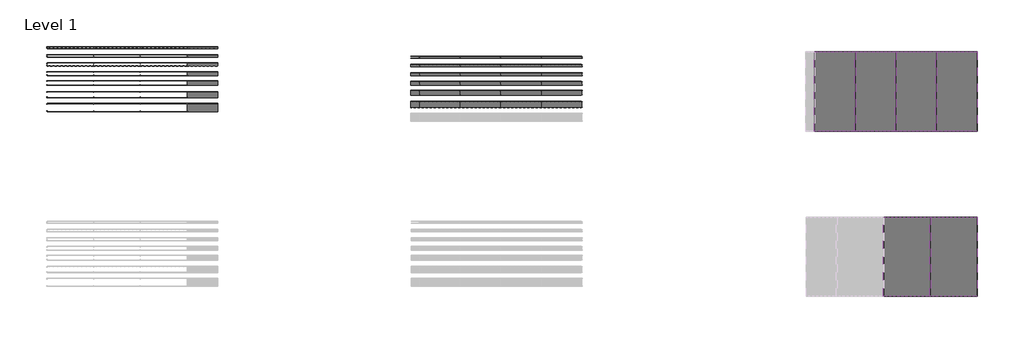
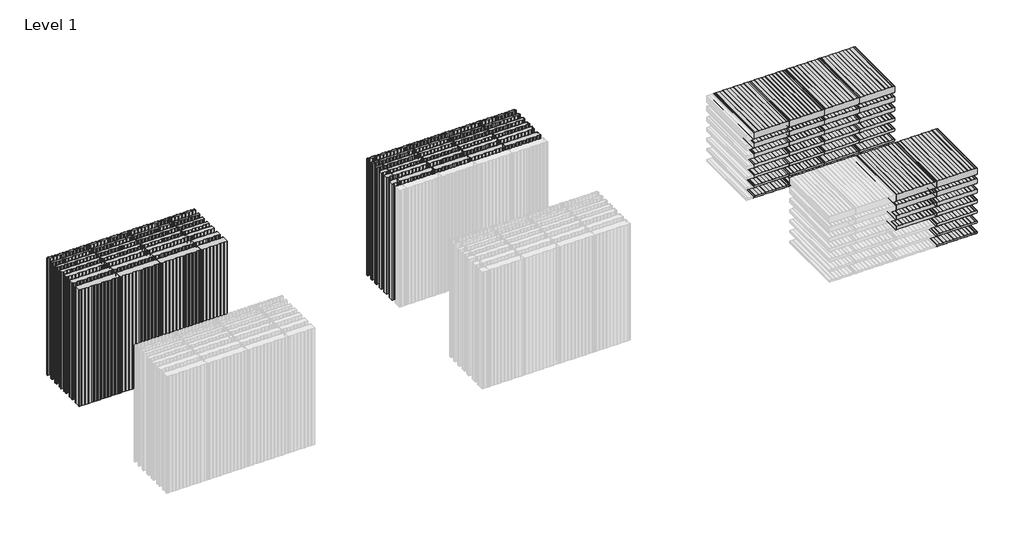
# One storey, part 4 of 4: 97 plates.
"""IFC4 building model written with IfcOpenShell, lengths in millimetres."""

from ifc_helpers import new_model, si_unit, origin, place, context, project, spatial, transform, mapped, element, save
from components import plate_c0fbc9e0, plate_24b0a13b, plate_1f1996e2, plate_37213962, plate_82cb0394, plate_46b46948, plate_215b7ad8, plate_cca0c929, plate_490ffd24, plate_86621088, plate_9c3616a6, plate_b6f5b8fb, plate_3ec6e447, plate_b6d19df9, plate_64459d4c, plate_1bd4c047, plate_331eded3, plate_70a947a0, plate_f790478e, plate_9475321e, plate_5101608a, plate_95d5dc12, plate_808d0dd5, plate_bc3a73cf, plate_645c54cf, plate_fd7bc9c6, plate_a12e6484, plate_edf24548, plate_c46ebac7, plate_a53d14e9, plate_b681ec22, plate_9f690ffb, plate_ebc39398, plate_293336a9, plate_7c5191db, plate_d920e055, plate_b3cdcdb4, plate_897669c1, plate_a9f73665, plate_05a95652, plate_f2a34cce, plate_6cec185c, plate_0c309260, plate_df710713, plate_caacb22a, plate_ede8462a, plate_cda4ae5a, plate_ffdd8b7e, plate_73a2f7ae, plate_e8205904, plate_b975286f, plate_5e7b8410, plate_5d81f6bc, plate_d92086c8

model = new_model("IFC4")

# Units and contexts
model_context = context("Model", 3, world=origin())
ifc_project = project(units=[si_unit("LENGTHUNIT", "METRE", prefix="MILLI")], contexts=[model_context])

# Site, building, storey
site = spatial("IfcSite", under=ifc_project)
building = spatial("IfcBuilding", under=site)
storey = spatial("IfcBuildingStorey", under=building, Name="Level 1", Elevation=0.0)

# Plates
placement = place(None, origin())
plate_shape = plate_c0fbc9e0(model_context)
plate_2_shape = plate_24b0a13b(model_context)
element("IfcPlate", 1, ObjectType="PM1_Curtain-Panel_Perfil-Frigorífico : ACH_PM1_Panel-Acústico-Sectorización_50M", at=placement, inside=storey, context=model_context, shape_type="MappedRepresentation", body=[
    mapped(plate_shape, transform((11007.4664378, -4719.7144508, 0.0), x_axis=(-1.0, 0.0, 0.0), y_axis=(0.0, 0.0, 1.0), z_axis=(0.0, 1.0, 0.0))),
    mapped(plate_2_shape, transform((11007.4664378, -4719.7144508, 0.0), x_axis=(-1.0, 0.0, 0.0), y_axis=(0.0, 0.0, 1.0), z_axis=(0.0, 1.0, 0.0))),
])
plate_3_shape = plate_1f1996e2(model_context)
plate_4_shape = plate_37213962(model_context)
element("IfcPlate", 2, ObjectType="PM1_Curtain-Panel_Perfil-Frigorífico : ACH_PM1_Panel-Acústico-Sectorización_60M", at=placement, inside=storey, context=model_context, shape_type="MappedRepresentation", body=[
    mapped(plate_3_shape, transform((11007.4664378, -4719.7144508, 320.0), x_axis=(-1.0, 0.0, 0.0), y_axis=(0.0, 0.0, 1.0), z_axis=(0.0, 1.0, 0.0))),
    mapped(plate_4_shape, transform((11007.4664378, -4719.7144508, 320.0), x_axis=(-1.0, 0.0, 0.0), y_axis=(0.0, 0.0, 1.0), z_axis=(0.0, 1.0, 0.0))),
])
plate_5_shape = plate_82cb0394(model_context)
plate_6_shape = plate_46b46948(model_context)
element("IfcPlate", 3, ObjectType="PM1_Curtain-Panel_Perfil-Frigorífico : ACH_PM1_Panel-Acústico-Sectorización_80M", at=placement, inside=storey, context=model_context, shape_type="MappedRepresentation", body=[
    mapped(plate_5_shape, transform((11007.4664378, -4719.7144508, 640.0), x_axis=(-1.0, 0.0, 0.0), y_axis=(0.0, 0.0, 1.0), z_axis=(0.0, 1.0, 0.0))),
    mapped(plate_6_shape, transform((11007.4664378, -4719.7144508, 640.0), x_axis=(-1.0, 0.0, 0.0), y_axis=(0.0, 0.0, 1.0), z_axis=(0.0, 1.0, 0.0))),
])
plate_7_shape = plate_215b7ad8(model_context)
plate_8_shape = plate_cca0c929(model_context)
element("IfcPlate", 4, ObjectType="PM1_Curtain-Panel_Perfil-Frigorífico : ACH_PM1_Panel-Acústico-Sectorización_100M", at=placement, inside=storey, context=model_context, shape_type="MappedRepresentation", body=[
    mapped(plate_7_shape, transform((11007.4664378, -4719.7144508, 960.0), x_axis=(-1.0, 0.0, 0.0), y_axis=(0.0, 0.0, 1.0), z_axis=(0.0, 1.0, 0.0))),
    mapped(plate_8_shape, transform((11007.4664378, -4719.7144508, 960.0), x_axis=(-1.0, 0.0, 0.0), y_axis=(0.0, 0.0, 1.0), z_axis=(0.0, 1.0, 0.0))),
])
element("IfcPlate", 5, ObjectType="PM1_Curtain-Panel_Perfil-Frigorífico : ACH_PM1_Panel-Acústico-Sectorización_100M", at=placement, inside=storey, context=model_context, shape_type="MappedRepresentation", body=[
    mapped(plate_7_shape, transform((9857.4664378, -4719.7144508, 960.0), x_axis=(-1.0, 0.0, 0.0), y_axis=(0.0, 0.0, 1.0), z_axis=(0.0, 1.0, 0.0))),
    mapped(plate_8_shape, transform((9857.4664378, -4719.7144508, 960.0), x_axis=(-1.0, 0.0, 0.0), y_axis=(0.0, 0.0, 1.0), z_axis=(0.0, 1.0, 0.0))),
])
plate_9_shape = plate_490ffd24(model_context)
plate_10_shape = plate_86621088(model_context)
element("IfcPlate", 6, ObjectType="PM1_Curtain-Panel_Perfil-Frigorífico : ACH_PM1_Panel-Acústico-Sectorización_120M", at=placement, inside=storey, context=model_context, shape_type="MappedRepresentation", body=[
    mapped(plate_9_shape, transform((11007.4664378, -4719.7144508, 1280.0), x_axis=(-1.0, 0.0, 0.0), y_axis=(0.0, 0.0, 1.0), z_axis=(0.0, 1.0, 0.0))),
    mapped(plate_10_shape, transform((11007.4664378, -4719.7144508, 1280.0), x_axis=(-1.0, 0.0, 0.0), y_axis=(0.0, 0.0, 1.0), z_axis=(0.0, 1.0, 0.0))),
])
element("IfcPlate", 7, ObjectType="PM1_Curtain-Panel_Perfil-Frigorífico : ACH_PM1_Panel-Acústico-Sectorización_120M", at=placement, inside=storey, context=model_context, shape_type="MappedRepresentation", body=[
    mapped(plate_9_shape, transform((9857.4664378, -4719.7144508, 1280.0), x_axis=(-1.0, 0.0, 0.0), y_axis=(0.0, 0.0, 1.0), z_axis=(0.0, 1.0, 0.0))),
    mapped(plate_10_shape, transform((9857.4664378, -4719.7144508, 1280.0), x_axis=(-1.0, 0.0, 0.0), y_axis=(0.0, 0.0, 1.0), z_axis=(0.0, 1.0, 0.0))),
])
plate_11_shape = plate_9c3616a6(model_context)
plate_12_shape = plate_b6f5b8fb(model_context)
element("IfcPlate", 8, ObjectType="PM1_Curtain-Panel_Perfil-Frigorífico : ACH_PM1_Panel-Acústico-Sectorización_150M", at=placement, inside=storey, context=model_context, shape_type="MappedRepresentation", body=[
    mapped(plate_11_shape, transform((11007.4664378, -4719.7144508, 1600.0), x_axis=(-1.0, 0.0, 0.0), y_axis=(0.0, 0.0, 1.0), z_axis=(0.0, 1.0, 0.0))),
    mapped(plate_12_shape, transform((11007.4664378, -4719.7144508, 1600.0), x_axis=(-1.0, 0.0, 0.0), y_axis=(0.0, 0.0, 1.0), z_axis=(0.0, 1.0, 0.0))),
])
element("IfcPlate", 9, ObjectType="PM1_Curtain-Panel_Perfil-Frigorífico : ACH_PM1_Panel-Acústico-Sectorización_150M", at=placement, inside=storey, context=model_context, shape_type="MappedRepresentation", body=[
    mapped(plate_11_shape, transform((9857.4664378, -4719.7144508, 1600.0), x_axis=(-1.0, 0.0, 0.0), y_axis=(0.0, 0.0, 1.0), z_axis=(0.0, 1.0, 0.0))),
    mapped(plate_12_shape, transform((9857.4664378, -4719.7144508, 1600.0), x_axis=(-1.0, 0.0, 0.0), y_axis=(0.0, 0.0, 1.0), z_axis=(0.0, 1.0, 0.0))),
])
plate_13_shape = plate_3ec6e447(model_context)
plate_14_shape = plate_b6d19df9(model_context)
element("IfcPlate", 10, ObjectType="PM1_Curtain-Panel_Perfil-Frigorífico : ACH_PM1_Panel-Acústico-Sectorización_200M", at=placement, inside=storey, context=model_context, shape_type="MappedRepresentation", body=[
    mapped(plate_13_shape, transform((11007.4664378, -4719.7144508, 1920.0), x_axis=(-1.0, 0.0, 0.0), y_axis=(0.0, 0.0, 1.0), z_axis=(0.0, 1.0, 0.0))),
    mapped(plate_14_shape, transform((11007.4664378, -4719.7144508, 1920.0), x_axis=(-1.0, 0.0, 0.0), y_axis=(0.0, 0.0, 1.0), z_axis=(0.0, 1.0, 0.0))),
])
element("IfcPlate", 11, ObjectType="PM1_Curtain-Panel_Perfil-Frigorífico : ACH_PM1_Panel-Acústico-Sectorización_200M", at=placement, inside=storey, context=model_context, shape_type="MappedRepresentation", body=[
    mapped(plate_13_shape, transform((9857.4664378, -4719.7144508, 1920.0), x_axis=(-1.0, 0.0, 0.0), y_axis=(0.0, 0.0, 1.0), z_axis=(0.0, 1.0, 0.0))),
    mapped(plate_14_shape, transform((9857.4664378, -4719.7144508, 1920.0), x_axis=(-1.0, 0.0, 0.0), y_axis=(0.0, 0.0, 1.0), z_axis=(0.0, 1.0, 0.0))),
])
plate_15_shape = plate_64459d4c(model_context)
plate_16_shape = plate_1bd4c047(model_context)
element("IfcPlate", 12, ObjectType="PM1_Curtain-Panel_Perfil-Estándar : ACH_PM1_Panel-Acústico-Sectorización_60M", at=placement, inside=storey, context=model_context, shape_type="MappedRepresentation", body=[
    mapped(plate_15_shape, transform((-10729.4132588, 1220.6868121, 0.0), x_axis=(1.0, 0.0, 0.0), y_axis=(0.0, 1.0, 0.0), z_axis=(0.0, 0.0, 1.0))),
    mapped(plate_16_shape, transform((-10729.4132588, 1220.6868121, 0.0), x_axis=(1.0, 0.0, 0.0), y_axis=(0.0, 1.0, 0.0), z_axis=(0.0, 0.0, 1.0))),
])
element("IfcPlate", 13, ObjectType="PM1_Curtain-Panel_Perfil-Estándar : ACH_PM1_Panel-Acústico-Sectorización_60M", at=placement, inside=storey, context=model_context, shape_type="MappedRepresentation", body=[
    mapped(plate_15_shape, transform((-9579.4132588, 1220.6868121, 0.0), x_axis=(1.0, 0.0, 0.0), y_axis=(0.0, 1.0, 0.0), z_axis=(0.0, 0.0, 1.0))),
    mapped(plate_16_shape, transform((-9579.4132588, 1220.6868121, 0.0), x_axis=(1.0, 0.0, 0.0), y_axis=(0.0, 1.0, 0.0), z_axis=(0.0, 0.0, 1.0))),
])
element("IfcPlate", 14, ObjectType="PM1_Curtain-Panel_Perfil-Estándar : ACH_PM1_Panel-Acústico-Sectorización_60M", at=placement, inside=storey, context=model_context, shape_type="MappedRepresentation", body=[
    mapped(plate_15_shape, transform((-8429.4132588, 1220.6868121, 0.0), x_axis=(1.0, 0.0, 0.0), y_axis=(0.0, 1.0, 0.0), z_axis=(0.0, 0.0, 1.0))),
    mapped(plate_16_shape, transform((-8429.4132588, 1220.6868121, 0.0), x_axis=(1.0, 0.0, 0.0), y_axis=(0.0, 1.0, 0.0), z_axis=(0.0, 0.0, 1.0))),
])
plate_17_shape = plate_331eded3(model_context)
element("IfcPlate", 15, ObjectType="PM1_Curtain-Panel_Perfil-Estándar : ACH_PM1_Panel-Acústico-Sectorización_60M", at=placement, inside=storey, context=model_context, shape_type="MappedRepresentation", body=[
    mapped(plate_17_shape, transform((-7479.4132588, 1220.6868121, 0.0), x_axis=(1.0, 0.0, 0.0), y_axis=(0.0, 1.0, 0.0), z_axis=(0.0, 0.0, 1.0))),
])
plate_18_shape = plate_70a947a0(model_context)
plate_19_shape = plate_f790478e(model_context)
element("IfcPlate", 16, ObjectType="PM1_Curtain-Panel_Perfil-Estándar : ACH_PM1_Panel-Acústico-Sectorización_80M", at=placement, inside=storey, context=model_context, shape_type="MappedRepresentation", body=[
    mapped(plate_18_shape, transform((-10729.4132588, 1020.6868121, 0.0), x_axis=(1.0, 0.0, 0.0), y_axis=(0.0, 1.0, 0.0), z_axis=(0.0, 0.0, 1.0))),
    mapped(plate_19_shape, transform((-10729.4132588, 1020.6868121, 0.0), x_axis=(1.0, 0.0, 0.0), y_axis=(0.0, 1.0, 0.0), z_axis=(0.0, 0.0, 1.0))),
])
element("IfcPlate", 17, ObjectType="PM1_Curtain-Panel_Perfil-Estándar : ACH_PM1_Panel-Acústico-Sectorización_80M", at=placement, inside=storey, context=model_context, shape_type="MappedRepresentation", body=[
    mapped(plate_18_shape, transform((-9579.4132588, 1020.6868121, 0.0), x_axis=(1.0, 0.0, 0.0), y_axis=(0.0, 1.0, 0.0), z_axis=(0.0, 0.0, 1.0))),
    mapped(plate_19_shape, transform((-9579.4132588, 1020.6868121, 0.0), x_axis=(1.0, 0.0, 0.0), y_axis=(0.0, 1.0, 0.0), z_axis=(0.0, 0.0, 1.0))),
])
element("IfcPlate", 18, ObjectType="PM1_Curtain-Panel_Perfil-Estándar : ACH_PM1_Panel-Acústico-Sectorización_80M", at=placement, inside=storey, context=model_context, shape_type="MappedRepresentation", body=[
    mapped(plate_18_shape, transform((-8429.4132588, 1020.6868121, 0.0), x_axis=(1.0, 0.0, 0.0), y_axis=(0.0, 1.0, 0.0), z_axis=(0.0, 0.0, 1.0))),
    mapped(plate_19_shape, transform((-8429.4132588, 1020.6868121, 0.0), x_axis=(1.0, 0.0, 0.0), y_axis=(0.0, 1.0, 0.0), z_axis=(0.0, 0.0, 1.0))),
])
plate_20_shape = plate_9475321e(model_context)
element("IfcPlate", 19, ObjectType="PM1_Curtain-Panel_Perfil-Estándar : ACH_PM1_Panel-Acústico-Sectorización_80M", at=placement, inside=storey, context=model_context, shape_type="MappedRepresentation", body=[
    mapped(plate_20_shape, transform((-7479.4132588, 1020.6868121, 0.0), x_axis=(1.0, 0.0, 0.0), y_axis=(0.0, 1.0, 0.0), z_axis=(0.0, 0.0, 1.0))),
])
plate_21_shape = plate_5101608a(model_context)
plate_22_shape = plate_95d5dc12(model_context)
element("IfcPlate", 20, ObjectType="PM1_Curtain-Panel_Perfil-Estándar : ACH_PM1_Panel-Acústico-Sectorización_50M", at=placement, inside=storey, context=model_context, shape_type="MappedRepresentation", body=[
    mapped(plate_21_shape, transform((-10729.4132588, 1420.6868121, 0.0), x_axis=(1.0, 0.0, 0.0), y_axis=(0.0, 1.0, 0.0), z_axis=(0.0, 0.0, 1.0))),
    mapped(plate_22_shape, transform((-10729.4132588, 1420.6868121, 0.0), x_axis=(1.0, 0.0, 0.0), y_axis=(0.0, 1.0, 0.0), z_axis=(0.0, 0.0, 1.0))),
])
element("IfcPlate", 21, ObjectType="PM1_Curtain-Panel_Perfil-Estándar : ACH_PM1_Panel-Acústico-Sectorización_50M", at=placement, inside=storey, context=model_context, shape_type="MappedRepresentation", body=[
    mapped(plate_21_shape, transform((-9579.4132588, 1420.6868121, 0.0), x_axis=(1.0, 0.0, 0.0), y_axis=(0.0, 1.0, 0.0), z_axis=(0.0, 0.0, 1.0))),
    mapped(plate_22_shape, transform((-9579.4132588, 1420.6868121, 0.0), x_axis=(1.0, 0.0, 0.0), y_axis=(0.0, 1.0, 0.0), z_axis=(0.0, 0.0, 1.0))),
])
element("IfcPlate", 22, ObjectType="PM1_Curtain-Panel_Perfil-Estándar : ACH_PM1_Panel-Acústico-Sectorización_50M", at=placement, inside=storey, context=model_context, shape_type="MappedRepresentation", body=[
    mapped(plate_21_shape, transform((-8429.4132588, 1420.6868121, 0.0), x_axis=(1.0, 0.0, 0.0), y_axis=(0.0, 1.0, 0.0), z_axis=(0.0, 0.0, 1.0))),
    mapped(plate_22_shape, transform((-8429.4132588, 1420.6868121, 0.0), x_axis=(1.0, 0.0, 0.0), y_axis=(0.0, 1.0, 0.0), z_axis=(0.0, 0.0, 1.0))),
])
plate_23_shape = plate_808d0dd5(model_context)
element("IfcPlate", 23, ObjectType="PM1_Curtain-Panel_Perfil-Estándar : ACH_PM1_Panel-Acústico-Sectorización_50M", at=placement, inside=storey, context=model_context, shape_type="MappedRepresentation", body=[
    mapped(plate_23_shape, transform((-7479.4012848, 1420.6868121, 0.0), x_axis=(1.0, 0.0, 0.0), y_axis=(0.0, 1.0, 0.0), z_axis=(0.0, 0.0, 1.0))),
])
plate_24_shape = plate_bc3a73cf(model_context)
plate_25_shape = plate_645c54cf(model_context)
element("IfcPlate", 24, ObjectType="PM1_Curtain-Panel_Perfil-Estándar : ACH_PM1_Panel-Acústico-Sectorización_100M", at=placement, inside=storey, context=model_context, shape_type="MappedRepresentation", body=[
    mapped(plate_24_shape, transform((-10729.4132588, 804.8868121, 0.0), x_axis=(1.0, 0.0, 0.0), y_axis=(0.0, 1.0, 0.0), z_axis=(0.0, 0.0, 1.0))),
    mapped(plate_25_shape, transform((-10729.4132588, 804.8868121, 0.0), x_axis=(1.0, 0.0, 0.0), y_axis=(0.0, 1.0, 0.0), z_axis=(0.0, 0.0, 1.0))),
])
element("IfcPlate", 25, ObjectType="PM1_Curtain-Panel_Perfil-Estándar : ACH_PM1_Panel-Acústico-Sectorización_100M", at=placement, inside=storey, context=model_context, shape_type="MappedRepresentation", body=[
    mapped(plate_24_shape, transform((-9579.4132588, 804.8868121, 0.0), x_axis=(1.0, 0.0, 0.0), y_axis=(0.0, 1.0, 0.0), z_axis=(0.0, 0.0, 1.0))),
    mapped(plate_25_shape, transform((-9579.4132588, 804.8868121, 0.0), x_axis=(1.0, 0.0, 0.0), y_axis=(0.0, 1.0, 0.0), z_axis=(0.0, 0.0, 1.0))),
])
element("IfcPlate", 26, ObjectType="PM1_Curtain-Panel_Perfil-Estándar : ACH_PM1_Panel-Acústico-Sectorización_100M", at=placement, inside=storey, context=model_context, shape_type="MappedRepresentation", body=[
    mapped(plate_24_shape, transform((-8429.4132588, 804.8868121, 0.0), x_axis=(1.0, 0.0, 0.0), y_axis=(0.0, 1.0, 0.0), z_axis=(0.0, 0.0, 1.0))),
    mapped(plate_25_shape, transform((-8429.4132588, 804.8868121, 0.0), x_axis=(1.0, 0.0, 0.0), y_axis=(0.0, 1.0, 0.0), z_axis=(0.0, 0.0, 1.0))),
])
plate_26_shape = plate_fd7bc9c6(model_context)
element("IfcPlate", 27, ObjectType="PM1_Curtain-Panel_Perfil-Estándar : ACH_PM1_Panel-Acústico-Sectorización_100M", at=placement, inside=storey, context=model_context, shape_type="MappedRepresentation", body=[
    mapped(plate_26_shape, transform((-7479.4132588, 804.8868121, 0.0), x_axis=(1.0, 0.0, 0.0), y_axis=(0.0, 1.0, 0.0), z_axis=(0.0, 0.0, 1.0))),
])
plate_27_shape = plate_a12e6484(model_context)
plate_28_shape = plate_edf24548(model_context)
element("IfcPlate", 28, ObjectType="PM1_Curtain-Panel_Perfil-Estándar : ACH_PM1_Panel-Acústico-Sectorización_120M", at=placement, inside=storey, context=model_context, shape_type="MappedRepresentation", body=[
    mapped(plate_27_shape, transform((-10729.4132588, 584.8868121, 0.0), x_axis=(1.0, 0.0, 0.0), y_axis=(0.0, 1.0, 0.0), z_axis=(0.0, 0.0, 1.0))),
    mapped(plate_28_shape, transform((-10729.4132588, 584.8868121, 0.0), x_axis=(1.0, 0.0, 0.0), y_axis=(0.0, 1.0, 0.0), z_axis=(0.0, 0.0, 1.0))),
])
element("IfcPlate", 29, ObjectType="PM1_Curtain-Panel_Perfil-Estándar : ACH_PM1_Panel-Acústico-Sectorización_120M", at=placement, inside=storey, context=model_context, shape_type="MappedRepresentation", body=[
    mapped(plate_27_shape, transform((-9579.4132588, 584.8868121, 0.0), x_axis=(1.0, 0.0, 0.0), y_axis=(0.0, 1.0, 0.0), z_axis=(0.0, 0.0, 1.0))),
    mapped(plate_28_shape, transform((-9579.4132588, 584.8868121, 0.0), x_axis=(1.0, 0.0, 0.0), y_axis=(0.0, 1.0, 0.0), z_axis=(0.0, 0.0, 1.0))),
])
element("IfcPlate", 30, ObjectType="PM1_Curtain-Panel_Perfil-Estándar : ACH_PM1_Panel-Acústico-Sectorización_120M", at=placement, inside=storey, context=model_context, shape_type="MappedRepresentation", body=[
    mapped(plate_27_shape, transform((-8429.4132588, 584.8868121, 0.0), x_axis=(1.0, 0.0, 0.0), y_axis=(0.0, 1.0, 0.0), z_axis=(0.0, 0.0, 1.0))),
    mapped(plate_28_shape, transform((-8429.4132588, 584.8868121, 0.0), x_axis=(1.0, 0.0, 0.0), y_axis=(0.0, 1.0, 0.0), z_axis=(0.0, 0.0, 1.0))),
])
plate_29_shape = plate_c46ebac7(model_context)
element("IfcPlate", 31, ObjectType="PM1_Curtain-Panel_Perfil-Estándar : ACH_PM1_Panel-Acústico-Sectorización_120M", at=placement, inside=storey, context=model_context, shape_type="MappedRepresentation", body=[
    mapped(plate_29_shape, transform((-7479.4132588, 584.8868121, 0.0), x_axis=(1.0, 0.0, 0.0), y_axis=(0.0, 1.0, 0.0), z_axis=(0.0, 0.0, 1.0))),
])
plate_30_shape = plate_a53d14e9(model_context)
plate_31_shape = plate_b681ec22(model_context)
element("IfcPlate", 32, ObjectType="PM1_Curtain-Panel_Perfil-Estándar : ACH_PM1_Panel-Acústico-Sectorización_150M", at=placement, inside=storey, context=model_context, shape_type="MappedRepresentation", body=[
    mapped(plate_30_shape, transform((-10729.4132588, 309.8868121, 0.0), x_axis=(1.0, 0.0, 0.0), y_axis=(0.0, 1.0, 0.0), z_axis=(0.0, 0.0, 1.0))),
    mapped(plate_31_shape, transform((-10729.4132588, 309.8868121, 0.0), x_axis=(1.0, 0.0, 0.0), y_axis=(0.0, 1.0, 0.0), z_axis=(0.0, 0.0, 1.0))),
])
element("IfcPlate", 33, ObjectType="PM1_Curtain-Panel_Perfil-Estándar : ACH_PM1_Panel-Acústico-Sectorización_150M", at=placement, inside=storey, context=model_context, shape_type="MappedRepresentation", body=[
    mapped(plate_30_shape, transform((-9579.4132588, 309.8868121, 0.0), x_axis=(1.0, 0.0, 0.0), y_axis=(0.0, 1.0, 0.0), z_axis=(0.0, 0.0, 1.0))),
    mapped(plate_31_shape, transform((-9579.4132588, 309.8868121, 0.0), x_axis=(1.0, 0.0, 0.0), y_axis=(0.0, 1.0, 0.0), z_axis=(0.0, 0.0, 1.0))),
])
element("IfcPlate", 34, ObjectType="PM1_Curtain-Panel_Perfil-Estándar : ACH_PM1_Panel-Acústico-Sectorización_150M", at=placement, inside=storey, context=model_context, shape_type="MappedRepresentation", body=[
    mapped(plate_30_shape, transform((-8429.4132588, 309.8868121, 0.0), x_axis=(1.0, 0.0, 0.0), y_axis=(0.0, 1.0, 0.0), z_axis=(0.0, 0.0, 1.0))),
    mapped(plate_31_shape, transform((-8429.4132588, 309.8868121, 0.0), x_axis=(1.0, 0.0, 0.0), y_axis=(0.0, 1.0, 0.0), z_axis=(0.0, 0.0, 1.0))),
])
plate_32_shape = plate_9f690ffb(model_context)
element("IfcPlate", 35, ObjectType="PM1_Curtain-Panel_Perfil-Estándar : ACH_PM1_Panel-Acústico-Sectorización_150M", at=placement, inside=storey, context=model_context, shape_type="MappedRepresentation", body=[
    mapped(plate_32_shape, transform((-7479.4132588, 309.8868121, 0.0), x_axis=(1.0, 0.0, 0.0), y_axis=(0.0, 1.0, 0.0), z_axis=(0.0, 0.0, 1.0))),
])
plate_33_shape = plate_ebc39398(model_context)
plate_34_shape = plate_293336a9(model_context)
element("IfcPlate", 36, ObjectType="PM1_Curtain-Panel_Perfil-Estándar : ACH_PM1_Panel-Acústico-Sectorización_200M", at=placement, inside=storey, context=model_context, shape_type="MappedRepresentation", body=[
    mapped(plate_33_shape, transform((-10729.4132588, 19.8868121, 0.0), x_axis=(1.0, 0.0, 0.0), y_axis=(0.0, 1.0, 0.0), z_axis=(0.0, 0.0, 1.0))),
    mapped(plate_34_shape, transform((-10729.4132588, 19.8868121, 0.0), x_axis=(1.0, 0.0, 0.0), y_axis=(0.0, 1.0, 0.0), z_axis=(0.0, 0.0, 1.0))),
])
element("IfcPlate", 37, ObjectType="PM1_Curtain-Panel_Perfil-Estándar : ACH_PM1_Panel-Acústico-Sectorización_200M", at=placement, inside=storey, context=model_context, shape_type="MappedRepresentation", body=[
    mapped(plate_33_shape, transform((-9579.4132588, 19.8868121, 0.0), x_axis=(1.0, 0.0, 0.0), y_axis=(0.0, 1.0, 0.0), z_axis=(0.0, 0.0, 1.0))),
    mapped(plate_34_shape, transform((-9579.4132588, 19.8868121, 0.0), x_axis=(1.0, 0.0, 0.0), y_axis=(0.0, 1.0, 0.0), z_axis=(0.0, 0.0, 1.0))),
])
element("IfcPlate", 38, ObjectType="PM1_Curtain-Panel_Perfil-Estándar : ACH_PM1_Panel-Acústico-Sectorización_200M", at=placement, inside=storey, context=model_context, shape_type="MappedRepresentation", body=[
    mapped(plate_33_shape, transform((-8429.4132588, 19.8868121, 0.0), x_axis=(1.0, 0.0, 0.0), y_axis=(0.0, 1.0, 0.0), z_axis=(0.0, 0.0, 1.0))),
    mapped(plate_34_shape, transform((-8429.4132588, 19.8868121, 0.0), x_axis=(1.0, 0.0, 0.0), y_axis=(0.0, 1.0, 0.0), z_axis=(0.0, 0.0, 1.0))),
])
plate_35_shape = plate_7c5191db(model_context)
element("IfcPlate", 39, ObjectType="PM1_Curtain-Panel_Perfil-Estándar : ACH_PM1_Panel-Acústico-Sectorización_200M", at=placement, inside=storey, context=model_context, shape_type="MappedRepresentation", body=[
    mapped(plate_35_shape, transform((-7479.4132588, 19.8868121, 0.0), x_axis=(1.0, 0.0, 0.0), y_axis=(0.0, 1.0, 0.0), z_axis=(0.0, 0.0, 1.0))),
])
plate_36_shape = plate_d920e055(model_context)
element("IfcPlate", 40, ObjectType="PMH_Curtain-Panel_Perfil-Estándar : ACH_PMH_Panel-Acústico-Sectorización_60M", at=placement, inside=storey, context=model_context, shape_type="MappedRepresentation", body=[
    mapped(plate_36_shape, transform((1353.9432954, 981.1826032, 0.0), x_axis=(-1.0, 0.0, 0.0), y_axis=(0.0, -1.0, 0.0), z_axis=(0.0, 0.0, 1.0))),
])
element("IfcPlate", 41, ObjectType="PMH_Curtain-Panel_Perfil-Estándar : ACH_PMH_Panel-Acústico-Sectorización_60M", at=placement, inside=storey, context=model_context, shape_type="MappedRepresentation", body=[
    mapped(plate_36_shape, transform((-646.0567046, 981.1826032, 0.0), x_axis=(-1.0, 0.0, 0.0), y_axis=(0.0, -1.0, 0.0), z_axis=(0.0, 0.0, 1.0))),
])
element("IfcPlate", 42, ObjectType="PMH_Curtain-Panel_Perfil-Estándar : ACH_PMH_Panel-Acústico-Sectorización_60M", at=placement, inside=storey, context=model_context, shape_type="MappedRepresentation", body=[
    mapped(plate_36_shape, transform((-1646.0567046, 981.1826032, 0.0), x_axis=(-1.0, 0.0, 0.0), y_axis=(0.0, -1.0, 0.0), z_axis=(0.0, 0.0, 1.0))),
])
element("IfcPlate", 43, ObjectType="PMH_Curtain-Panel_Perfil-Estándar : ACH_PMH_Panel-Acústico-Sectorización_60M", at=placement, inside=storey, context=model_context, shape_type="MappedRepresentation", body=[
    mapped(plate_36_shape, transform((353.9432954, 981.1826032, 0.0), x_axis=(-1.0, 0.0, 0.0), y_axis=(0.0, -1.0, 0.0), z_axis=(0.0, 0.0, 1.0))),
])
plate_37_shape = plate_b3cdcdb4(model_context)
element("IfcPlate", 44, ObjectType="PMH_Curtain-Panel_Perfil-Estándar : ACH_PMH_Panel-Acústico-Sectorización_60M", at=placement, inside=storey, context=model_context, shape_type="MappedRepresentation", body=[
    mapped(plate_37_shape, transform((-2246.0567046, 981.1826032, 0.0), x_axis=(-1.0, 0.0, 0.0), y_axis=(0.0, -1.0, 0.0), z_axis=(0.0, 0.0, 1.0))),
])
plate_38_shape = plate_897669c1(model_context)
element("IfcPlate", 45, ObjectType="PMH_Curtain-Panel_Perfil-Estándar : ACH_PMH_Panel-Acústico-Sectorización_80M", at=placement, inside=storey, context=model_context, shape_type="MappedRepresentation", body=[
    mapped(plate_38_shape, transform((1353.9432954, 781.1826032, 0.0), x_axis=(-1.0, 0.0, 0.0), y_axis=(0.0, -1.0, 0.0), z_axis=(0.0, 0.0, 1.0))),
])
element("IfcPlate", 46, ObjectType="PMH_Curtain-Panel_Perfil-Estándar : ACH_PMH_Panel-Acústico-Sectorización_80M", at=placement, inside=storey, context=model_context, shape_type="MappedRepresentation", body=[
    mapped(plate_38_shape, transform((-646.0567046, 781.1826032, 0.0), x_axis=(-1.0, 0.0, 0.0), y_axis=(0.0, -1.0, 0.0), z_axis=(0.0, 0.0, 1.0))),
])
element("IfcPlate", 47, ObjectType="PMH_Curtain-Panel_Perfil-Estándar : ACH_PMH_Panel-Acústico-Sectorización_80M", at=placement, inside=storey, context=model_context, shape_type="MappedRepresentation", body=[
    mapped(plate_38_shape, transform((-1646.0567046, 781.1826032, 0.0), x_axis=(-1.0, 0.0, 0.0), y_axis=(0.0, -1.0, 0.0), z_axis=(0.0, 0.0, 1.0))),
])
element("IfcPlate", 48, ObjectType="PMH_Curtain-Panel_Perfil-Estándar : ACH_PMH_Panel-Acústico-Sectorización_80M", at=placement, inside=storey, context=model_context, shape_type="MappedRepresentation", body=[
    mapped(plate_38_shape, transform((353.9432954, 781.1826032, 0.0), x_axis=(-1.0, 0.0, 0.0), y_axis=(0.0, -1.0, 0.0), z_axis=(0.0, 0.0, 1.0))),
])
plate_39_shape = plate_a9f73665(model_context)
element("IfcPlate", 49, ObjectType="PMH_Curtain-Panel_Perfil-Estándar : ACH_PMH_Panel-Acústico-Sectorización_80M", at=placement, inside=storey, context=model_context, shape_type="MappedRepresentation", body=[
    mapped(plate_39_shape, transform((-2246.0567046, 781.1826032, 0.0), x_axis=(-1.0, 0.0, 0.0), y_axis=(0.0, -1.0, 0.0), z_axis=(0.0, 0.0, 1.0))),
])
plate_40_shape = plate_05a95652(model_context)
element("IfcPlate", 50, ObjectType="PMH_Curtain-Panel_Perfil-Estándar : ACH_PMH_Panel-Acústico-Sectorización_50M", at=placement, inside=storey, context=model_context, shape_type="MappedRepresentation", body=[
    mapped(plate_40_shape, transform((1353.9432954, 1181.1826032, 0.0), x_axis=(-1.0, 0.0, 0.0), y_axis=(0.0, -1.0, 0.0), z_axis=(0.0, 0.0, 1.0))),
])
element("IfcPlate", 51, ObjectType="PMH_Curtain-Panel_Perfil-Estándar : ACH_PMH_Panel-Acústico-Sectorización_50M", at=placement, inside=storey, context=model_context, shape_type="MappedRepresentation", body=[
    mapped(plate_40_shape, transform((-646.0567046, 1181.1826032, 0.0), x_axis=(-1.0, 0.0, 0.0), y_axis=(0.0, -1.0, 0.0), z_axis=(0.0, 0.0, 1.0))),
])
element("IfcPlate", 52, ObjectType="PMH_Curtain-Panel_Perfil-Estándar : ACH_PMH_Panel-Acústico-Sectorización_50M", at=placement, inside=storey, context=model_context, shape_type="MappedRepresentation", body=[
    mapped(plate_40_shape, transform((-1646.0567046, 1181.1826032, 0.0), x_axis=(-1.0, 0.0, 0.0), y_axis=(0.0, -1.0, 0.0), z_axis=(0.0, 0.0, 1.0))),
])
element("IfcPlate", 53, ObjectType="PMH_Curtain-Panel_Perfil-Estándar : ACH_PMH_Panel-Acústico-Sectorización_50M", at=placement, inside=storey, context=model_context, shape_type="MappedRepresentation", body=[
    mapped(plate_40_shape, transform((353.9432954, 1181.1826032, 0.0), x_axis=(-1.0, 0.0, 0.0), y_axis=(0.0, -1.0, 0.0), z_axis=(0.0, 0.0, 1.0))),
])
plate_41_shape = plate_f2a34cce(model_context)
element("IfcPlate", 54, ObjectType="PMH_Curtain-Panel_Perfil-Estándar : ACH_PMH_Panel-Acústico-Sectorización_50M", at=placement, inside=storey, context=model_context, shape_type="MappedRepresentation", body=[
    mapped(plate_41_shape, transform((-2246.0686785, 1181.1826032, 0.0), x_axis=(-1.0, 0.0, 0.0), y_axis=(0.0, -1.0, 0.0), z_axis=(0.0, 0.0, 1.0))),
])
plate_42_shape = plate_6cec185c(model_context)
element("IfcPlate", 55, ObjectType="PMH_Curtain-Panel_Perfil-Estándar : ACH_PMH_Panel-Acústico-Sectorización_100M", at=placement, inside=storey, context=model_context, shape_type="MappedRepresentation", body=[
    mapped(plate_42_shape, transform((1353.9432954, 565.3826032, 0.0), x_axis=(-1.0, 0.0, 0.0), y_axis=(0.0, -1.0, 0.0), z_axis=(0.0, 0.0, 1.0))),
])
element("IfcPlate", 56, ObjectType="PMH_Curtain-Panel_Perfil-Estándar : ACH_PMH_Panel-Acústico-Sectorización_100M", at=placement, inside=storey, context=model_context, shape_type="MappedRepresentation", body=[
    mapped(plate_42_shape, transform((-646.0567046, 565.3826032, 0.0), x_axis=(-1.0, 0.0, 0.0), y_axis=(0.0, -1.0, 0.0), z_axis=(0.0, 0.0, 1.0))),
])
element("IfcPlate", 57, ObjectType="PMH_Curtain-Panel_Perfil-Estándar : ACH_PMH_Panel-Acústico-Sectorización_100M", at=placement, inside=storey, context=model_context, shape_type="MappedRepresentation", body=[
    mapped(plate_42_shape, transform((-1646.0567046, 565.3826032, 0.0), x_axis=(-1.0, 0.0, 0.0), y_axis=(0.0, -1.0, 0.0), z_axis=(0.0, 0.0, 1.0))),
])
element("IfcPlate", 58, ObjectType="PMH_Curtain-Panel_Perfil-Estándar : ACH_PMH_Panel-Acústico-Sectorización_100M", at=placement, inside=storey, context=model_context, shape_type="MappedRepresentation", body=[
    mapped(plate_42_shape, transform((353.9432954, 565.3826032, 0.0), x_axis=(-1.0, 0.0, 0.0), y_axis=(0.0, -1.0, 0.0), z_axis=(0.0, 0.0, 1.0))),
])
plate_43_shape = plate_0c309260(model_context)
element("IfcPlate", 59, ObjectType="PMH_Curtain-Panel_Perfil-Estándar : ACH_PMH_Panel-Acústico-Sectorización_100M", at=placement, inside=storey, context=model_context, shape_type="MappedRepresentation", body=[
    mapped(plate_43_shape, transform((-2246.0567046, 565.3826032, 0.0), x_axis=(-1.0, 0.0, 0.0), y_axis=(0.0, -1.0, 0.0), z_axis=(0.0, 0.0, 1.0))),
])
plate_44_shape = plate_df710713(model_context)
element("IfcPlate", 60, ObjectType="PMH_Curtain-Panel_Perfil-Estándar : ACH_PMH_Panel-Acústico-Sectorización_50M", at=placement, inside=storey, context=model_context, shape_type="MappedRepresentation", body=[
    mapped(plate_44_shape, transform((11082.4664378, -659.2186597, 0.0), x_axis=(-1.0, 0.0, 0.0), y_axis=(0.0, 0.0, 1.0), z_axis=(0.0, 1.0, 0.0))),
])
element("IfcPlate", 61, ObjectType="PMH_Curtain-Panel_Perfil-Estándar : ACH_PMH_Panel-Acústico-Sectorización_50M", at=placement, inside=storey, context=model_context, shape_type="MappedRepresentation", body=[
    mapped(plate_44_shape, transform((10082.4664378, -659.2186597, 0.0), x_axis=(-1.0, 0.0, 0.0), y_axis=(0.0, 0.0, 1.0), z_axis=(0.0, 1.0, 0.0))),
])
element("IfcPlate", 62, ObjectType="PMH_Curtain-Panel_Perfil-Estándar : ACH_PMH_Panel-Acústico-Sectorización_50M", at=placement, inside=storey, context=model_context, shape_type="MappedRepresentation", body=[
    mapped(plate_44_shape, transform((9082.4664378, -659.2186597, 0.0), x_axis=(-1.0, 0.0, 0.0), y_axis=(0.0, 0.0, 1.0), z_axis=(0.0, 1.0, 0.0))),
])
element("IfcPlate", 63, ObjectType="PMH_Curtain-Panel_Perfil-Estándar : ACH_PMH_Panel-Acústico-Sectorización_50M", at=placement, inside=storey, context=model_context, shape_type="MappedRepresentation", body=[
    mapped(plate_44_shape, transform((8082.4664378, -659.2186597, 0.0), x_axis=(-1.0, 0.0, 0.0), y_axis=(0.0, 0.0, 1.0), z_axis=(0.0, 1.0, 0.0))),
])
plate_45_shape = plate_caacb22a(model_context)
element("IfcPlate", 64, ObjectType="PMH_Curtain-Panel_Perfil-Estándar : ACH_PMH_Panel-Acústico-Sectorización_120M", at=placement, inside=storey, context=model_context, shape_type="MappedRepresentation", body=[
    mapped(plate_45_shape, transform((1353.9432954, 345.3826032, 0.0), x_axis=(-1.0, 0.0, 0.0), y_axis=(0.0, -1.0, 0.0), z_axis=(0.0, 0.0, 1.0))),
])
element("IfcPlate", 65, ObjectType="PMH_Curtain-Panel_Perfil-Estándar : ACH_PMH_Panel-Acústico-Sectorización_120M", at=placement, inside=storey, context=model_context, shape_type="MappedRepresentation", body=[
    mapped(plate_45_shape, transform((-646.0567046, 345.3826032, 0.0), x_axis=(-1.0, 0.0, 0.0), y_axis=(0.0, -1.0, 0.0), z_axis=(0.0, 0.0, 1.0))),
])
element("IfcPlate", 66, ObjectType="PMH_Curtain-Panel_Perfil-Estándar : ACH_PMH_Panel-Acústico-Sectorización_120M", at=placement, inside=storey, context=model_context, shape_type="MappedRepresentation", body=[
    mapped(plate_45_shape, transform((-1646.0567046, 345.3826032, 0.0), x_axis=(-1.0, 0.0, 0.0), y_axis=(0.0, -1.0, 0.0), z_axis=(0.0, 0.0, 1.0))),
])
element("IfcPlate", 67, ObjectType="PMH_Curtain-Panel_Perfil-Estándar : ACH_PMH_Panel-Acústico-Sectorización_120M", at=placement, inside=storey, context=model_context, shape_type="MappedRepresentation", body=[
    mapped(plate_45_shape, transform((353.9432954, 345.3826032, 0.0), x_axis=(-1.0, 0.0, 0.0), y_axis=(0.0, -1.0, 0.0), z_axis=(0.0, 0.0, 1.0))),
])
plate_46_shape = plate_ede8462a(model_context)
element("IfcPlate", 68, ObjectType="PMH_Curtain-Panel_Perfil-Estándar : ACH_PMH_Panel-Acústico-Sectorización_120M", at=placement, inside=storey, context=model_context, shape_type="MappedRepresentation", body=[
    mapped(plate_46_shape, transform((-2246.0567046, 345.3826032, 0.0), x_axis=(-1.0, 0.0, 0.0), y_axis=(0.0, -1.0, 0.0), z_axis=(0.0, 0.0, 1.0))),
])
plate_47_shape = plate_cda4ae5a(model_context)
element("IfcPlate", 69, ObjectType="PMH_Curtain-Panel_Perfil-Estándar : ACH_PMH_Panel-Acústico-Sectorización_150M", at=placement, inside=storey, context=model_context, shape_type="MappedRepresentation", body=[
    mapped(plate_47_shape, transform((1353.9432954, 70.3826032, 0.0), x_axis=(-1.0, 0.0, 0.0), y_axis=(0.0, -1.0, 0.0), z_axis=(0.0, 0.0, 1.0))),
])
element("IfcPlate", 70, ObjectType="PMH_Curtain-Panel_Perfil-Estándar : ACH_PMH_Panel-Acústico-Sectorización_150M", at=placement, inside=storey, context=model_context, shape_type="MappedRepresentation", body=[
    mapped(plate_47_shape, transform((-646.0567046, 70.3826032, 0.0), x_axis=(-1.0, 0.0, 0.0), y_axis=(0.0, -1.0, 0.0), z_axis=(0.0, 0.0, 1.0))),
])
element("IfcPlate", 71, ObjectType="PMH_Curtain-Panel_Perfil-Estándar : ACH_PMH_Panel-Acústico-Sectorización_150M", at=placement, inside=storey, context=model_context, shape_type="MappedRepresentation", body=[
    mapped(plate_47_shape, transform((-1646.0567046, 70.3826032, 0.0), x_axis=(-1.0, 0.0, 0.0), y_axis=(0.0, -1.0, 0.0), z_axis=(0.0, 0.0, 1.0))),
])
element("IfcPlate", 72, ObjectType="PMH_Curtain-Panel_Perfil-Estándar : ACH_PMH_Panel-Acústico-Sectorización_150M", at=placement, inside=storey, context=model_context, shape_type="MappedRepresentation", body=[
    mapped(plate_47_shape, transform((353.9432954, 70.3826032, 0.0), x_axis=(-1.0, 0.0, 0.0), y_axis=(0.0, -1.0, 0.0), z_axis=(0.0, 0.0, 1.0))),
])
plate_48_shape = plate_ffdd8b7e(model_context)
element("IfcPlate", 73, ObjectType="PMH_Curtain-Panel_Perfil-Estándar : ACH_PMH_Panel-Acústico-Sectorización_150M", at=placement, inside=storey, context=model_context, shape_type="MappedRepresentation", body=[
    mapped(plate_48_shape, transform((-2246.0567046, 70.3826032, 0.0), x_axis=(-1.0, 0.0, 0.0), y_axis=(0.0, -1.0, 0.0), z_axis=(0.0, 0.0, 1.0))),
])
plate_49_shape = plate_73a2f7ae(model_context)
element("IfcPlate", 74, ObjectType="PMH_Curtain-Panel_Perfil-Estándar : ACH_PMH_Panel-Acústico-Sectorización_60M", at=placement, inside=storey, context=model_context, shape_type="MappedRepresentation", body=[
    mapped(plate_49_shape, transform((11082.4664378, -659.2186597, 320.0), x_axis=(-1.0, 0.0, 0.0), y_axis=(0.0, 0.0, 1.0), z_axis=(0.0, 1.0, 0.0))),
])
element("IfcPlate", 75, ObjectType="PMH_Curtain-Panel_Perfil-Estándar : ACH_PMH_Panel-Acústico-Sectorización_60M", at=placement, inside=storey, context=model_context, shape_type="MappedRepresentation", body=[
    mapped(plate_49_shape, transform((10082.4664378, -659.2186597, 320.0), x_axis=(-1.0, 0.0, 0.0), y_axis=(0.0, 0.0, 1.0), z_axis=(0.0, 1.0, 0.0))),
])
element("IfcPlate", 76, ObjectType="PMH_Curtain-Panel_Perfil-Estándar : ACH_PMH_Panel-Acústico-Sectorización_60M", at=placement, inside=storey, context=model_context, shape_type="MappedRepresentation", body=[
    mapped(plate_49_shape, transform((9082.4664378, -659.2186597, 320.0), x_axis=(-1.0, 0.0, 0.0), y_axis=(0.0, 0.0, 1.0), z_axis=(0.0, 1.0, 0.0))),
])
element("IfcPlate", 77, ObjectType="PMH_Curtain-Panel_Perfil-Estándar : ACH_PMH_Panel-Acústico-Sectorización_60M", at=placement, inside=storey, context=model_context, shape_type="MappedRepresentation", body=[
    mapped(plate_49_shape, transform((8082.4664378, -659.2186597, 320.0), x_axis=(-1.0, 0.0, 0.0), y_axis=(0.0, 0.0, 1.0), z_axis=(0.0, 1.0, 0.0))),
])
plate_50_shape = plate_e8205904(model_context)
element("IfcPlate", 78, ObjectType="PMH_Curtain-Panel_Perfil-Estándar : ACH_PMH_Panel-Acústico-Sectorización_80M", at=placement, inside=storey, context=model_context, shape_type="MappedRepresentation", body=[
    mapped(plate_50_shape, transform((11082.4664378, -659.2186597, 640.0), x_axis=(-1.0, 0.0, 0.0), y_axis=(0.0, 0.0, 1.0), z_axis=(0.0, 1.0, 0.0))),
])
element("IfcPlate", 79, ObjectType="PMH_Curtain-Panel_Perfil-Estándar : ACH_PMH_Panel-Acústico-Sectorización_80M", at=placement, inside=storey, context=model_context, shape_type="MappedRepresentation", body=[
    mapped(plate_50_shape, transform((10082.4664378, -659.2186597, 640.0), x_axis=(-1.0, 0.0, 0.0), y_axis=(0.0, 0.0, 1.0), z_axis=(0.0, 1.0, 0.0))),
])
element("IfcPlate", 80, ObjectType="PMH_Curtain-Panel_Perfil-Estándar : ACH_PMH_Panel-Acústico-Sectorización_80M", at=placement, inside=storey, context=model_context, shape_type="MappedRepresentation", body=[
    mapped(plate_50_shape, transform((9082.4664378, -659.2186597, 640.0), x_axis=(-1.0, 0.0, 0.0), y_axis=(0.0, 0.0, 1.0), z_axis=(0.0, 1.0, 0.0))),
])
element("IfcPlate", 81, ObjectType="PMH_Curtain-Panel_Perfil-Estándar : ACH_PMH_Panel-Acústico-Sectorización_80M", at=placement, inside=storey, context=model_context, shape_type="MappedRepresentation", body=[
    mapped(plate_50_shape, transform((8082.4664378, -659.2186597, 640.0), x_axis=(-1.0, 0.0, 0.0), y_axis=(0.0, 0.0, 1.0), z_axis=(0.0, 1.0, 0.0))),
])
plate_51_shape = plate_b975286f(model_context)
element("IfcPlate", 82, ObjectType="PMH_Curtain-Panel_Perfil-Estándar : ACH_PMH_Panel-Acústico-Sectorización_100M", at=placement, inside=storey, context=model_context, shape_type="MappedRepresentation", body=[
    mapped(plate_51_shape, transform((11082.4664378, -659.2186597, 960.0), x_axis=(-1.0, 0.0, 0.0), y_axis=(0.0, 0.0, 1.0), z_axis=(0.0, 1.0, 0.0))),
])
element("IfcPlate", 83, ObjectType="PMH_Curtain-Panel_Perfil-Estándar : ACH_PMH_Panel-Acústico-Sectorización_100M", at=placement, inside=storey, context=model_context, shape_type="MappedRepresentation", body=[
    mapped(plate_51_shape, transform((10082.4664378, -659.2186597, 960.0), x_axis=(-1.0, 0.0, 0.0), y_axis=(0.0, 0.0, 1.0), z_axis=(0.0, 1.0, 0.0))),
])
element("IfcPlate", 84, ObjectType="PMH_Curtain-Panel_Perfil-Estándar : ACH_PMH_Panel-Acústico-Sectorización_100M", at=placement, inside=storey, context=model_context, shape_type="MappedRepresentation", body=[
    mapped(plate_51_shape, transform((9082.4664378, -659.2186597, 960.0), x_axis=(-1.0, 0.0, 0.0), y_axis=(0.0, 0.0, 1.0), z_axis=(0.0, 1.0, 0.0))),
])
element("IfcPlate", 85, ObjectType="PMH_Curtain-Panel_Perfil-Estándar : ACH_PMH_Panel-Acústico-Sectorización_100M", at=placement, inside=storey, context=model_context, shape_type="MappedRepresentation", body=[
    mapped(plate_51_shape, transform((8082.4664378, -659.2186597, 960.0), x_axis=(-1.0, 0.0, 0.0), y_axis=(0.0, 0.0, 1.0), z_axis=(0.0, 1.0, 0.0))),
])
plate_52_shape = plate_5e7b8410(model_context)
element("IfcPlate", 86, ObjectType="PMH_Curtain-Panel_Perfil-Estándar : ACH_PMH_Panel-Acústico-Sectorización_120M", at=placement, inside=storey, context=model_context, shape_type="MappedRepresentation", body=[
    mapped(plate_52_shape, transform((11082.4664378, -659.2186597, 1280.0), x_axis=(-1.0, 0.0, 0.0), y_axis=(0.0, 0.0, 1.0), z_axis=(0.0, 1.0, 0.0))),
])
element("IfcPlate", 87, ObjectType="PMH_Curtain-Panel_Perfil-Estándar : ACH_PMH_Panel-Acústico-Sectorización_120M", at=placement, inside=storey, context=model_context, shape_type="MappedRepresentation", body=[
    mapped(plate_52_shape, transform((10082.4664378, -659.2186597, 1280.0), x_axis=(-1.0, 0.0, 0.0), y_axis=(0.0, 0.0, 1.0), z_axis=(0.0, 1.0, 0.0))),
])
element("IfcPlate", 88, ObjectType="PMH_Curtain-Panel_Perfil-Estándar : ACH_PMH_Panel-Acústico-Sectorización_120M", at=placement, inside=storey, context=model_context, shape_type="MappedRepresentation", body=[
    mapped(plate_52_shape, transform((9082.4664378, -659.2186597, 1280.0), x_axis=(-1.0, 0.0, 0.0), y_axis=(0.0, 0.0, 1.0), z_axis=(0.0, 1.0, 0.0))),
])
element("IfcPlate", 89, ObjectType="PMH_Curtain-Panel_Perfil-Estándar : ACH_PMH_Panel-Acústico-Sectorización_120M", at=placement, inside=storey, context=model_context, shape_type="MappedRepresentation", body=[
    mapped(plate_52_shape, transform((8082.4664378, -659.2186597, 1280.0), x_axis=(-1.0, 0.0, 0.0), y_axis=(0.0, 0.0, 1.0), z_axis=(0.0, 1.0, 0.0))),
])
plate_53_shape = plate_5d81f6bc(model_context)
element("IfcPlate", 90, ObjectType="PMH_Curtain-Panel_Perfil-Estándar : ACH_PMH_Panel-Acústico-Sectorización_150M", at=placement, inside=storey, context=model_context, shape_type="MappedRepresentation", body=[
    mapped(plate_53_shape, transform((11082.4664378, -659.2186597, 1600.0), x_axis=(-1.0, 0.0, 0.0), y_axis=(0.0, 0.0, 1.0), z_axis=(0.0, 1.0, 0.0))),
])
element("IfcPlate", 91, ObjectType="PMH_Curtain-Panel_Perfil-Estándar : ACH_PMH_Panel-Acústico-Sectorización_150M", at=placement, inside=storey, context=model_context, shape_type="MappedRepresentation", body=[
    mapped(plate_53_shape, transform((10082.4664378, -659.2186597, 1600.0), x_axis=(-1.0, 0.0, 0.0), y_axis=(0.0, 0.0, 1.0), z_axis=(0.0, 1.0, 0.0))),
])
element("IfcPlate", 92, ObjectType="PMH_Curtain-Panel_Perfil-Estándar : ACH_PMH_Panel-Acústico-Sectorización_150M", at=placement, inside=storey, context=model_context, shape_type="MappedRepresentation", body=[
    mapped(plate_53_shape, transform((9082.4664378, -659.2186597, 1600.0), x_axis=(-1.0, 0.0, 0.0), y_axis=(0.0, 0.0, 1.0), z_axis=(0.0, 1.0, 0.0))),
])
element("IfcPlate", 93, ObjectType="PMH_Curtain-Panel_Perfil-Estándar : ACH_PMH_Panel-Acústico-Sectorización_150M", at=placement, inside=storey, context=model_context, shape_type="MappedRepresentation", body=[
    mapped(plate_53_shape, transform((8082.4664378, -659.2186597, 1600.0), x_axis=(-1.0, 0.0, 0.0), y_axis=(0.0, 0.0, 1.0), z_axis=(0.0, 1.0, 0.0))),
])
plate_54_shape = plate_d92086c8(model_context)
element("IfcPlate", 94, ObjectType="PMH_Curtain-Panel_Perfil-Estándar : ACH_PMH_Panel-Acústico-Sectorización_200M", at=placement, inside=storey, context=model_context, shape_type="MappedRepresentation", body=[
    mapped(plate_54_shape, transform((11082.4664378, -659.2186597, 1920.0), x_axis=(-1.0, 0.0, 0.0), y_axis=(0.0, 0.0, 1.0), z_axis=(0.0, 1.0, 0.0))),
])
element("IfcPlate", 95, ObjectType="PMH_Curtain-Panel_Perfil-Estándar : ACH_PMH_Panel-Acústico-Sectorización_200M", at=placement, inside=storey, context=model_context, shape_type="MappedRepresentation", body=[
    mapped(plate_54_shape, transform((10082.4664378, -659.2186597, 1920.0), x_axis=(-1.0, 0.0, 0.0), y_axis=(0.0, 0.0, 1.0), z_axis=(0.0, 1.0, 0.0))),
])
element("IfcPlate", 96, ObjectType="PMH_Curtain-Panel_Perfil-Estándar : ACH_PMH_Panel-Acústico-Sectorización_200M", at=placement, inside=storey, context=model_context, shape_type="MappedRepresentation", body=[
    mapped(plate_54_shape, transform((9082.4664378, -659.2186597, 1920.0), x_axis=(-1.0, 0.0, 0.0), y_axis=(0.0, 0.0, 1.0), z_axis=(0.0, 1.0, 0.0))),
])
element("IfcPlate", 97, ObjectType="PMH_Curtain-Panel_Perfil-Estándar : ACH_PMH_Panel-Acústico-Sectorización_200M", at=placement, inside=storey, context=model_context, shape_type="MappedRepresentation", body=[
    mapped(plate_54_shape, transform((8082.4664378, -659.2186597, 1920.0), x_axis=(-1.0, 0.0, 0.0), y_axis=(0.0, 0.0, 1.0), z_axis=(0.0, 1.0, 0.0))),
])

save(model, "model.ifc")
